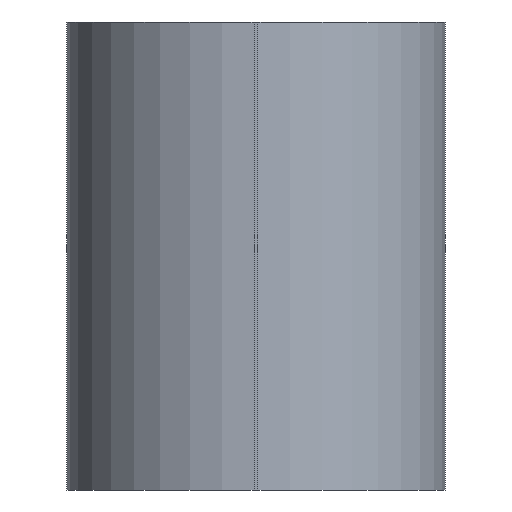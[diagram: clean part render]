
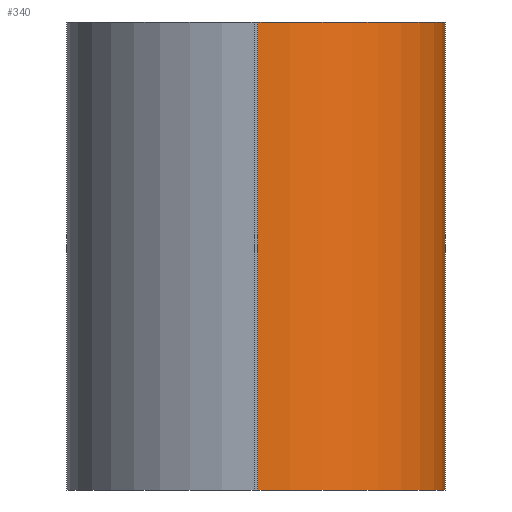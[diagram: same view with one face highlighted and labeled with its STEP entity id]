
A CAD part, left-side view. The second image highlights one B-rep face of the part: STEP entity #340.
In plain terms, the highlighted cylindrical face has radius 4 mm (diameter 8 mm), a partial arc.
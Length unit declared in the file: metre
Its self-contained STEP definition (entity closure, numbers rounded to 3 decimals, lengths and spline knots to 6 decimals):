
#48=LINE('',#580,#80);
#49=LINE('',#584,#81);
#80=VECTOR('',#477,1.);
#81=VECTOR('',#480,1.);
#155=ORIENTED_EDGE('',*,*,#216,.T.);
#156=ORIENTED_EDGE('',*,*,#222,.T.);
#157=ORIENTED_EDGE('',*,*,#223,.T.);
#158=ORIENTED_EDGE('',*,*,#224,.T.);
#216=EDGE_CURVE('',#256,#255,#275,.T.);
#222=EDGE_CURVE('',#255,#259,#48,.T.);
#223=EDGE_CURVE('',#259,#260,#277,.T.);
#224=EDGE_CURVE('',#260,#256,#49,.T.);
#255=VERTEX_POINT('',#567);
#256=VERTEX_POINT('',#569);
#259=VERTEX_POINT('',#581);
#260=VERTEX_POINT('',#583);
#275=CIRCLE('',#382,0.004);
#277=CIRCLE('',#387,0.004);
#293=EDGE_LOOP('',(#155,#156,#157,#158));
#313=FACE_BOUND('',#293,.T.);
#325=CYLINDRICAL_SURFACE('',#386,0.004);
#340=ADVANCED_FACE('',(#313),#325,.T.);
#382=AXIS2_PLACEMENT_3D('',#568,#463,#464);
#386=AXIS2_PLACEMENT_3D('',#579,#475,#476);
#387=AXIS2_PLACEMENT_3D('',#582,#478,#479);
#463=DIRECTION('',(0.,0.,-1.));
#464=DIRECTION('',(-0.707,-0.707,0.));
#475=DIRECTION('',(0.,0.,1.));
#476=DIRECTION('',(-0.707,-0.707,0.));
#477=DIRECTION('',(0.,0.,-1.));
#478=DIRECTION('',(0.,0.,1.));
#479=DIRECTION('',(-0.707,-0.707,0.));
#480=DIRECTION('',(0.,0.,1.));
#567=CARTESIAN_POINT('',(0.001857,0.054,-0.095));
#568=CARTESIAN_POINT('',(0.005857,0.054,-0.095));
#569=CARTESIAN_POINT('',(0.005857,0.05,-0.095));
#579=CARTESIAN_POINT('',(0.005857,0.054,-0.105));
#580=CARTESIAN_POINT('',(0.001857,0.054,-0.105));
#581=CARTESIAN_POINT('',(0.001857,0.054,-0.105));
#582=CARTESIAN_POINT('',(0.005857,0.054,-0.105));
#583=CARTESIAN_POINT('',(0.005857,0.05,-0.105));
#584=CARTESIAN_POINT('',(0.005857,0.05,-0.105));
